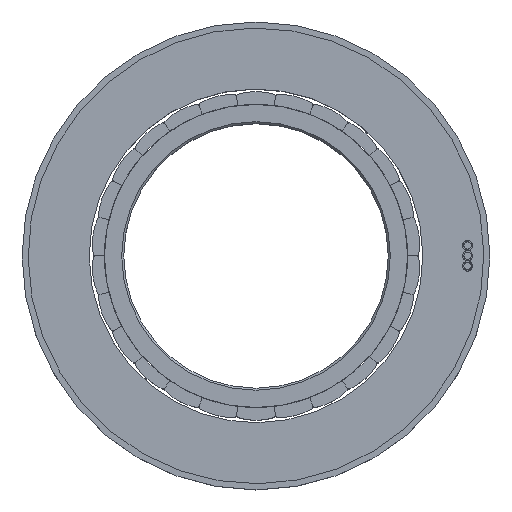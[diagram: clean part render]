
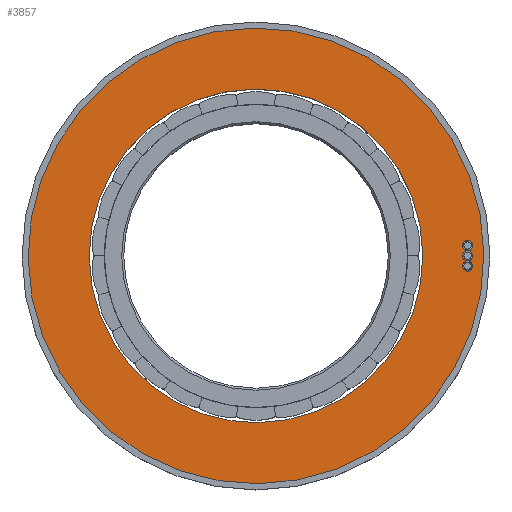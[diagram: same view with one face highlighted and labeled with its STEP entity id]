
A CAD part, top view. The second image highlights one B-rep face of the part: STEP entity #3857.
In plain terms, the highlighted planar face has unit normal (0, 0, 1).
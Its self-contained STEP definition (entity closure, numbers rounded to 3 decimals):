
#1870 = PLANE ( 'NONE',  #19573 ) ;
#2005 = EDGE_CURVE ( 'NONE', #10941, #10941, #15765, .T. ) ;
#2897 = CARTESIAN_POINT ( 'NONE',  ( 35.74, -20.091, 20.8 ) ) ;
#3488 = CARTESIAN_POINT ( 'NONE',  ( 0., 0., 20.8 ) ) ;
#3857 = ADVANCED_FACE ( 'NONE', ( #9933, #26407 ), #1870, .T. ) ;
#4215 = AXIS2_PLACEMENT_3D ( 'NONE', #23004, #6374, #16814 ) ;
#4252 = DIRECTION ( 'NONE',  ( 0.872, -0.49, 0. ) ) ;
#6374 = DIRECTION ( 'NONE',  ( 0., 0., 1. ) ) ;
#6899 = ORIENTED_EDGE ( 'NONE', *, *, #2005, .F. ) ;
#7724 = EDGE_LOOP ( 'NONE', ( #23332 ) ) ;
#9933 = FACE_OUTER_BOUND ( 'NONE', #7724, .T. ) ;
#10414 = CARTESIAN_POINT ( 'NONE',  ( 0., 0., 20.8 ) ) ;
#10548 = AXIS2_PLACEMENT_3D ( 'NONE', #10414, #16704, #4252 ) ;
#10941 = VERTEX_POINT ( 'NONE', #2897 ) ;
#12306 = EDGE_CURVE ( 'NONE', #21142, #21142, #19552, .T. ) ;
#14381 = EDGE_LOOP ( 'NONE', ( #6899 ) ) ;
#15765 = CIRCLE ( 'NONE', #4215, 41. ) ;
#16704 = DIRECTION ( 'NONE',  ( 0., 0., 1. ) ) ;
#16814 = DIRECTION ( 'NONE',  ( 0.872, -0.49, 0. ) ) ;
#19390 = CARTESIAN_POINT ( 'NONE',  ( 48.816, -27.441, 20.8 ) ) ;
#19552 = CIRCLE ( 'NONE', #10548, 56. ) ;
#19573 = AXIS2_PLACEMENT_3D ( 'NONE', #3488, #20249, #23888 ) ;
#20249 = DIRECTION ( 'NONE',  ( 0., 0., 1. ) ) ;
#21142 = VERTEX_POINT ( 'NONE', #19390 ) ;
#23004 = CARTESIAN_POINT ( 'NONE',  ( 0., 0., 20.8 ) ) ;
#23332 = ORIENTED_EDGE ( 'NONE', *, *, #12306, .T. ) ;
#23888 = DIRECTION ( 'NONE',  ( 0.872, -0.49, 0. ) ) ;
#26407 = FACE_BOUND ( 'NONE', #14381, .T. ) ;
